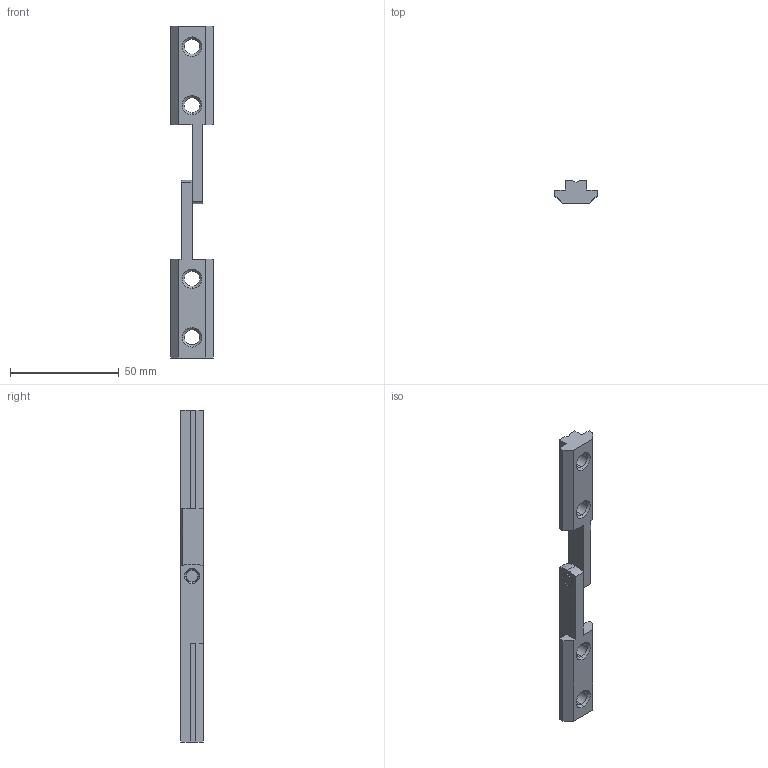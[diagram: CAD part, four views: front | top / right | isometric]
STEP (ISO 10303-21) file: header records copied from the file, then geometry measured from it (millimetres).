
FILE_DESCRIPTION (( 'STEP AP203' ), '1' );
FILE_NAME ('5352full.STEP', '2016-10-02T12:53:02', ( '' ), ( '' ), 'SwSTEP 2.0', 'SolidWorks 2014', '' );
FILE_SCHEMA (( 'CONFIG_CONTROL_DESIGN' ));
Length unit declared in the file: millimetre
Products named in the file (3): 5352; 5352full; 膹樖罻5352
Assembly tree (3 placements, depth 2):
  5352full
    5352  x2
    膹樖罻5352
Bounding box: 19.5 x 10.5 x 152.97 mm (x, y, z)
Volume: 15510.3 mm3; surface area: 8694.8 mm2
Topology: 3 solids, 3 shells, 90 faces, 218 edges, 130 vertices
Faces by surface type: plane 44, cone 26, cylinder 20
Entity records: 1735 total; most frequent: CARTESIAN_POINT 267, DIRECTION 253, ORIENTED_EDGE 232, EDGE_CURVE 116, AXIS2_PLACEMENT_3D 91, VECTOR 71, LINE 71, VERTEX_POINT 69
